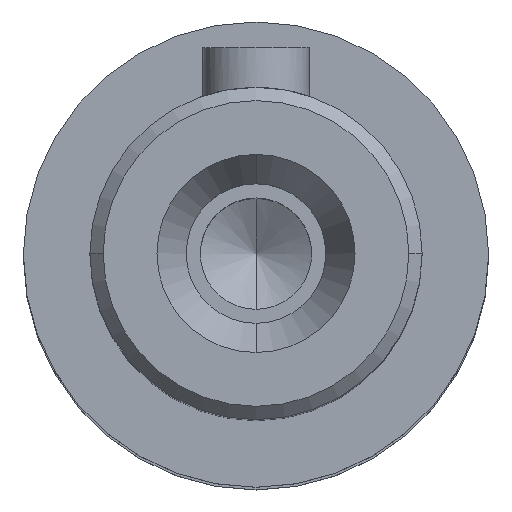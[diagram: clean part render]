
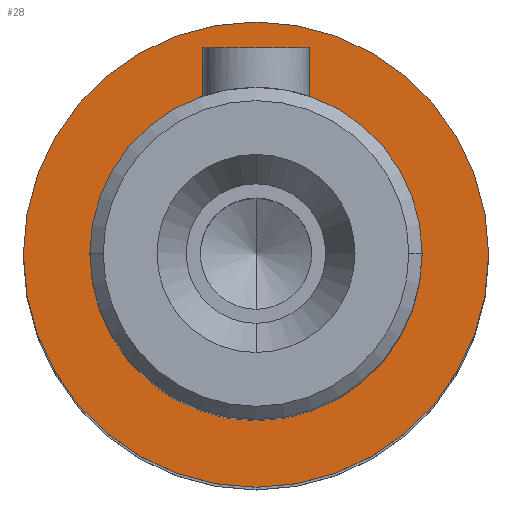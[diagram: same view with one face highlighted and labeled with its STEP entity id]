
A CAD part, top view. The second image highlights one B-rep face of the part: STEP entity #28.
In plain terms, the highlighted planar face has unit normal (0, 0, 1) as drawn and (1, 0, 0) by its records, which use the part's own axes.
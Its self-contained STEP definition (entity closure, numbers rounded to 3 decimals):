
#28=ADVANCED_FACE('',(#86,#72),#706,.T.);
#72=FACE_BOUND('',#141,.T.);
#86=FACE_OUTER_BOUND('',#140,.T.);
#140=EDGE_LOOP('',(#231,#232));
#141=EDGE_LOOP('',(#233,#234));
#231=ORIENTED_EDGE('',*,*,#458,.F.);
#232=ORIENTED_EDGE('',*,*,#397,.F.);
#233=ORIENTED_EDGE('',*,*,#448,.F.);
#234=ORIENTED_EDGE('',*,*,#387,.F.);
#387=EDGE_CURVE('',#638,#672,#531,.T.);
#397=EDGE_CURVE('',#646,#679,#537,.T.);
#448=EDGE_CURVE('',#672,#638,#560,.T.);
#458=EDGE_CURVE('',#679,#646,#566,.T.);
#531=TRIMMED_CURVE($,#580,(#1382),(#1383),.T.,.CARTESIAN.);
#537=TRIMMED_CURVE($,#586,(#1408),(#1409),.T.,.CARTESIAN.);
#560=TRIMMED_CURVE($,#609,(#1557),(#1558),.T.,.CARTESIAN.);
#566=TRIMMED_CURVE($,#615,(#1583),(#1584),.T.,.CARTESIAN.);
#580=CIRCLE('',#953,12.5);
#586=CIRCLE('',#959,17.5);
#609=CIRCLE('',#982,12.5);
#615=CIRCLE('',#988,17.5);
#638=VERTEX_POINT('',#1313);
#646=VERTEX_POINT('',#1321);
#672=VERTEX_POINT('',#1347);
#679=VERTEX_POINT('',#1354);
#706=PLANE('',#924);
#924=AXIS2_PLACEMENT_3D('',#1165,#1015,$);
#953=AXIS2_PLACEMENT_3D($,#1381,#1046,#1047);
#959=AXIS2_PLACEMENT_3D($,#1407,#1058,#1059);
#982=AXIS2_PLACEMENT_3D($,#1556,#1104,#1105);
#988=AXIS2_PLACEMENT_3D($,#1582,#1116,#1117);
#1015=DIRECTION('',(1.,0.,0.));
#1046=DIRECTION('',(1.,0.,0.));
#1047=DIRECTION('',(0.,0.,-1.));
#1058=DIRECTION('',(-1.,0.,0.));
#1059=DIRECTION('',(0.,0.,-1.));
#1104=DIRECTION('',(1.,0.,0.));
#1105=DIRECTION('',(0.,0.,1.));
#1116=DIRECTION('',(-1.,0.,0.));
#1117=DIRECTION('',(0.,0.,1.));
#1165=CARTESIAN_POINT('',(59.5,-21.06,-21.06));
#1313=CARTESIAN_POINT('',(59.5,0.,-12.5));
#1321=CARTESIAN_POINT('',(59.5,0.,-17.5));
#1347=CARTESIAN_POINT('',(59.5,0.,12.5));
#1354=CARTESIAN_POINT('',(59.5,0.,17.5));
#1381=CARTESIAN_POINT('',(59.5,0.,0.));
#1382=CARTESIAN_POINT('',(59.5,0.,-12.5));
#1383=CARTESIAN_POINT('',(59.5,0.,12.5));
#1407=CARTESIAN_POINT('',(59.5,0.,0.));
#1408=CARTESIAN_POINT('',(59.5,0.,-17.5));
#1409=CARTESIAN_POINT('',(59.5,0.,17.5));
#1556=CARTESIAN_POINT('',(59.5,0.,0.));
#1557=CARTESIAN_POINT('',(59.5,0.,12.5));
#1558=CARTESIAN_POINT('',(59.5,0.,-12.5));
#1582=CARTESIAN_POINT('',(59.5,0.,0.));
#1583=CARTESIAN_POINT('',(59.5,0.,17.5));
#1584=CARTESIAN_POINT('',(59.5,0.,-17.5));
